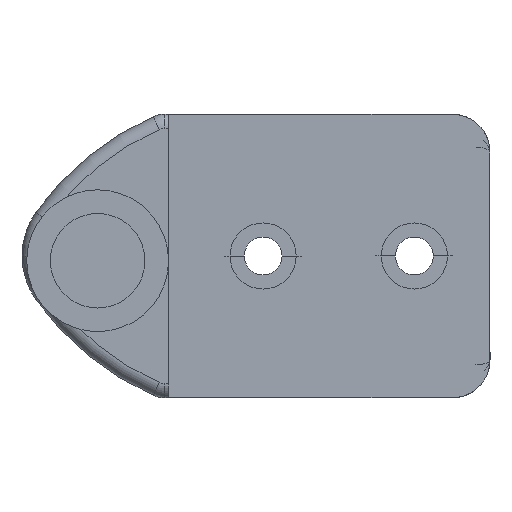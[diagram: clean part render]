
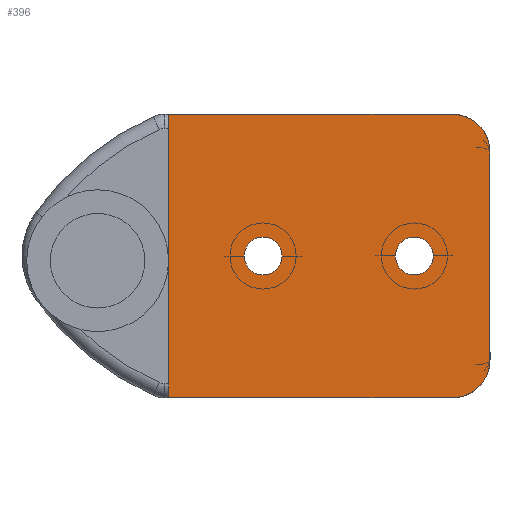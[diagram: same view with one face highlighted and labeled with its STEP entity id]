
A CAD part, front view. The second image highlights one B-rep face of the part: STEP entity #396.
In plain terms, the highlighted planar face has unit normal (0, -1, 0).
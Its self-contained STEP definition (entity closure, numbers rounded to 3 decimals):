
#108 = EDGE_CURVE ( 'NONE', #3012, #3009, #4570, .T. ) ;
#115 = EDGE_CURVE ( 'NONE', #2974, #2998, #3955, .T. ) ;
#137 = EDGE_CURVE ( 'NONE', #2998, #2974, #4040, .T. ) ;
#140 = EDGE_CURVE ( 'NONE', #3009, #3012, #4036, .T. ) ;
#141 = EDGE_CURVE ( 'NONE', #2940, #2973, #4037, .T. ) ;
#164 = EDGE_CURVE ( 'NONE', #2962, #2967, #4006, .T. ) ;
#167 = EDGE_CURVE ( 'NONE', #2967, #2947, #4004, .T. ) ;
#170 = EDGE_CURVE ( 'NONE', #2947, #2968, #3998, .T. ) ;
#182 = EDGE_CURVE ( 'NONE', #2968, #2940, #3987, .T. ) ;
#186 = EDGE_CURVE ( 'NONE', #2973, #2962, #3979, .T. ) ;
#328 = AXIS2_PLACEMENT_3D ( 'NONE', #1145, #1144, #1143 ) ;
#396 = ADVANCED_FACE ( 'NONE', ( #3802, #3801, #3800 ), #1146, .T. ) ;
#441 = CARTESIAN_POINT ( 'NONE',  ( 15.5, 597., 0.5 ) ) ;
#445 = CARTESIAN_POINT ( 'NONE',  ( 19.5, 597., 0.5 ) ) ;
#458 = CARTESIAN_POINT ( 'NONE',  ( 35.5, 597., 0.5 ) ) ;
#483 = CARTESIAN_POINT ( 'NONE',  ( 31.5, 597., 0.5 ) ) ;
#484 = CARTESIAN_POINT ( 'NONE',  ( 7.5, 597., 15.5 ) ) ;
#489 = CARTESIAN_POINT ( 'NONE',  ( 37.5, 597., -14.5 ) ) ;
#490 = CARTESIAN_POINT ( 'NONE',  ( 41.5, 597., 11.5 ) ) ;
#495 = CARTESIAN_POINT ( 'NONE',  ( 37.5, 597., 15.5 ) ) ;
#510 = CARTESIAN_POINT ( 'NONE',  ( 41.5, 597., -10.5 ) ) ;
#517 = CARTESIAN_POINT ( 'NONE',  ( 7.5, 597., -14.5 ) ) ;
#1143 = DIRECTION ( 'NONE',  ( -1., 0., 0. ) ) ;
#1144 = DIRECTION ( 'NONE',  ( 0., -1., 0. ) ) ;
#1145 = CARTESIAN_POINT ( 'NONE',  ( 37.5, 597., -10.5 ) ) ;
#1146 = PLANE ( 'NONE',  #328 ) ;
#1914 = AXIS2_PLACEMENT_3D ( 'NONE', #2466, #2465, #2464 ) ;
#1915 = AXIS2_PLACEMENT_3D ( 'NONE', #2596, #2595, #2593 ) ;
#1920 = AXIS2_PLACEMENT_3D ( 'NONE', #2066, #2062, #2057 ) ;
#1925 = AXIS2_PLACEMENT_3D ( 'NONE', #2652, #2651, #2650 ) ;
#1928 = AXIS2_PLACEMENT_3D ( 'NONE', #2669, #2668, #2667 ) ;
#1950 = AXIS2_PLACEMENT_3D ( 'NONE', #2485, #2484, #2483 ) ;
#2057 = DIRECTION ( 'NONE',  ( -1., 0., 0. ) ) ;
#2062 = DIRECTION ( 'NONE',  ( 0., 1., 0. ) ) ;
#2066 = CARTESIAN_POINT ( 'NONE',  ( 33.5, 597., 0.5 ) ) ;
#2400 = DIRECTION ( 'NONE',  ( 1., 0., 0. ) ) ;
#2401 = CARTESIAN_POINT ( 'NONE',  ( 37.5, 597., 15.5 ) ) ;
#2408 = DIRECTION ( 'NONE',  ( -1., 0., 0. ) ) ;
#2409 = CARTESIAN_POINT ( 'NONE',  ( 7.5, 597., -14.5 ) ) ;
#2464 = DIRECTION ( 'NONE',  ( -1., 0., 0. ) ) ;
#2465 = DIRECTION ( 'NONE',  ( 0., 1., 0. ) ) ;
#2466 = CARTESIAN_POINT ( 'NONE',  ( 37.5, 597., -10.5 ) ) ;
#2472 = DIRECTION ( 'NONE',  ( 0., 0., -1. ) ) ;
#2473 = CARTESIAN_POINT ( 'NONE',  ( 41.5, 597., -10.5 ) ) ;
#2483 = DIRECTION ( 'NONE',  ( -1., 0., 0. ) ) ;
#2484 = DIRECTION ( 'NONE',  ( 0., 1., 0. ) ) ;
#2485 = CARTESIAN_POINT ( 'NONE',  ( 37.5, 597., 11.5 ) ) ;
#2591 = DIRECTION ( 'NONE',  ( 0., 0., 1. ) ) ;
#2592 = CARTESIAN_POINT ( 'NONE',  ( 7.5, 597., 15.5 ) ) ;
#2593 = DIRECTION ( 'NONE',  ( -1., 0., 0. ) ) ;
#2595 = DIRECTION ( 'NONE',  ( 0., 1., 0. ) ) ;
#2596 = CARTESIAN_POINT ( 'NONE',  ( 17.5, 597., 0.5 ) ) ;
#2650 = DIRECTION ( 'NONE',  ( -1., 0., 0. ) ) ;
#2651 = DIRECTION ( 'NONE',  ( 0., 1., 0. ) ) ;
#2652 = CARTESIAN_POINT ( 'NONE',  ( 33.5, 597., 0.5 ) ) ;
#2667 = DIRECTION ( 'NONE',  ( -1., 0., 0. ) ) ;
#2668 = DIRECTION ( 'NONE',  ( 0., 1., 0. ) ) ;
#2669 = CARTESIAN_POINT ( 'NONE',  ( 17.5, 597., 0.5 ) ) ;
#2940 = VERTEX_POINT ( 'NONE', #517 ) ;
#2947 = VERTEX_POINT ( 'NONE', #510 ) ;
#2962 = VERTEX_POINT ( 'NONE', #495 ) ;
#2967 = VERTEX_POINT ( 'NONE', #490 ) ;
#2968 = VERTEX_POINT ( 'NONE', #489 ) ;
#2973 = VERTEX_POINT ( 'NONE', #484 ) ;
#2974 = VERTEX_POINT ( 'NONE', #483 ) ;
#2998 = VERTEX_POINT ( 'NONE', #458 ) ;
#3009 = VERTEX_POINT ( 'NONE', #445 ) ;
#3012 = VERTEX_POINT ( 'NONE', #441 ) ;
#3800 = FACE_OUTER_BOUND ( 'NONE', #4240, .T. ) ;
#3801 = FACE_BOUND ( 'NONE', #4277, .T. ) ;
#3802 = FACE_BOUND ( 'NONE', #4457, .T. ) ;
#3955 = CIRCLE ( 'NONE', #1925, 2. ) ;
#3978 = VECTOR ( 'NONE', #2400, 1000. ) ;
#3979 = LINE ( 'NONE', #2401, #3978 ) ;
#3986 = VECTOR ( 'NONE', #2408, 1000. ) ;
#3987 = LINE ( 'NONE', #2409, #3986 ) ;
#3998 = CIRCLE ( 'NONE', #1914, 4. ) ;
#4003 = VECTOR ( 'NONE', #2472, 1000. ) ;
#4004 = LINE ( 'NONE', #2473, #4003 ) ;
#4006 = CIRCLE ( 'NONE', #1950, 4. ) ;
#4035 = VECTOR ( 'NONE', #2591, 1000. ) ;
#4036 = CIRCLE ( 'NONE', #1915, 2. ) ;
#4037 = LINE ( 'NONE', #2592, #4035 ) ;
#4040 = CIRCLE ( 'NONE', #1920, 2. ) ;
#4215 = ORIENTED_EDGE ( 'NONE', *, *, #164, .F. ) ;
#4234 = ORIENTED_EDGE ( 'NONE', *, *, #167, .F. ) ;
#4240 = EDGE_LOOP ( 'NONE', ( #4502, #4501, #4500, #4331, #4234, #4215 ) ) ;
#4277 = EDGE_LOOP ( 'NONE', ( #4505, #4503 ) ) ;
#4331 = ORIENTED_EDGE ( 'NONE', *, *, #170, .F. ) ;
#4457 = EDGE_LOOP ( 'NONE', ( #4507, #4506 ) ) ;
#4500 = ORIENTED_EDGE ( 'NONE', *, *, #182, .F. ) ;
#4501 = ORIENTED_EDGE ( 'NONE', *, *, #141, .F. ) ;
#4502 = ORIENTED_EDGE ( 'NONE', *, *, #186, .F. ) ;
#4503 = ORIENTED_EDGE ( 'NONE', *, *, #115, .T. ) ;
#4505 = ORIENTED_EDGE ( 'NONE', *, *, #137, .T. ) ;
#4506 = ORIENTED_EDGE ( 'NONE', *, *, #108, .T. ) ;
#4507 = ORIENTED_EDGE ( 'NONE', *, *, #140, .T. ) ;
#4570 = CIRCLE ( 'NONE', #1928, 2. ) ;
